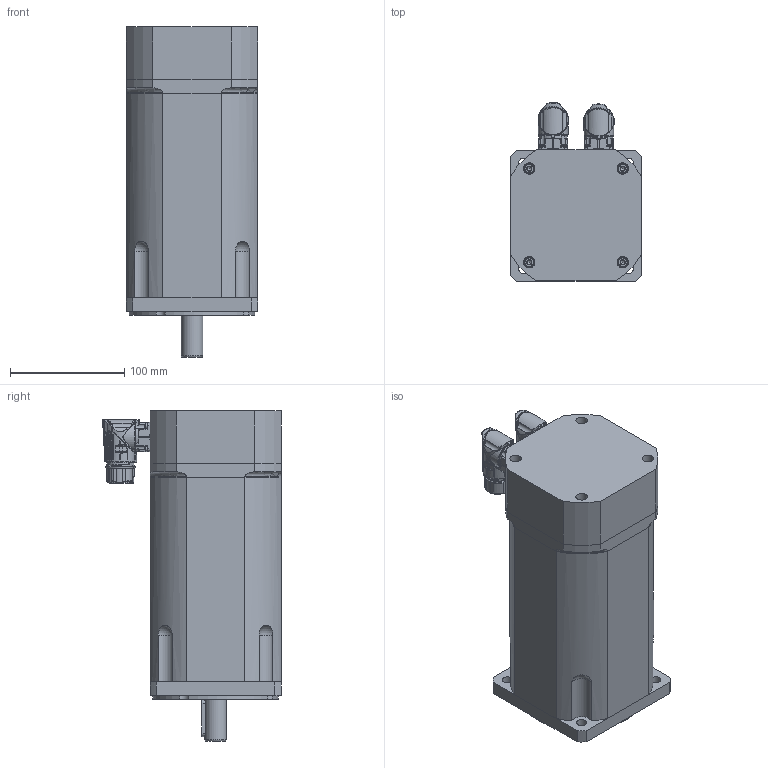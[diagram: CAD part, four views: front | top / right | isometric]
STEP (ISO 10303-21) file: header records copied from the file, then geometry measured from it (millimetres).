
FILE_DESCRIPTION(/* description */ (''),/* implementation_level */ '2;1');
FILE_NAME(/* name */ 'C:\Users\Public\Documents\Autodesk\Inventor LT 2014\Workspace\TG4\DSM5_4x_xxx7\DSM5_42_x1x7.stp',/* time_stamp */ '2016-03-14T13:45:38+01:00',/* author */ ('motion'),/* organization */ (''),/* preprocessor_version */ 'ST-DEVELOPER v15.2',/* originating_system */ 'Autodesk Inventor LT ',/* authorisation */ '');
FILE_SCHEMA (('AUTOMOTIVE_DESIGN { 1 0 10303 214 3 1 1 }'));
Products named in the file (1): DSM5_42_x1x7
Bounding box: 115 x 156.43 x 289.5 mm (x, y, z)
Volume: 3049481.1 mm3; surface area: 239042.1 mm2
Topology: 15 solids, 17 shells, 3085 faces, 7791 edges, 4689 vertices
Faces by surface type: cylinder 883, bspline 854, plane 596, torus 382, cone 250, sphere 120
Full cylindrical faces by diameter (mm): 1.2 x17, 2 x6, 2.15 x6, 2.224 x8, 2.5 x8, 2.7 x8, 3 x1, 4.5 x2, 4.917 x1, 5 x8, 5.5 x3, 5.9 x2, 6 x4, 8.5 x4, 9 x4, 10 x8, 11 x4, 15.2 x1, 19 x1, 19.1 x1, 21.6 x1, 22.5 x1, 23 x2, 24.4 x1, 25 x1, 42 x1, 52 x2, 90 x1
Entity records: 190329 total; most frequent: CARTESIAN_POINT 120176, ORIENTED_EDGE 14668, DIRECTION 12871, EDGE_CURVE 7334, AXIS2_PLACEMENT_3D 5525, VERTEX_POINT 4596, EDGE_LOOP 3476, ADVANCED_FACE 3081
